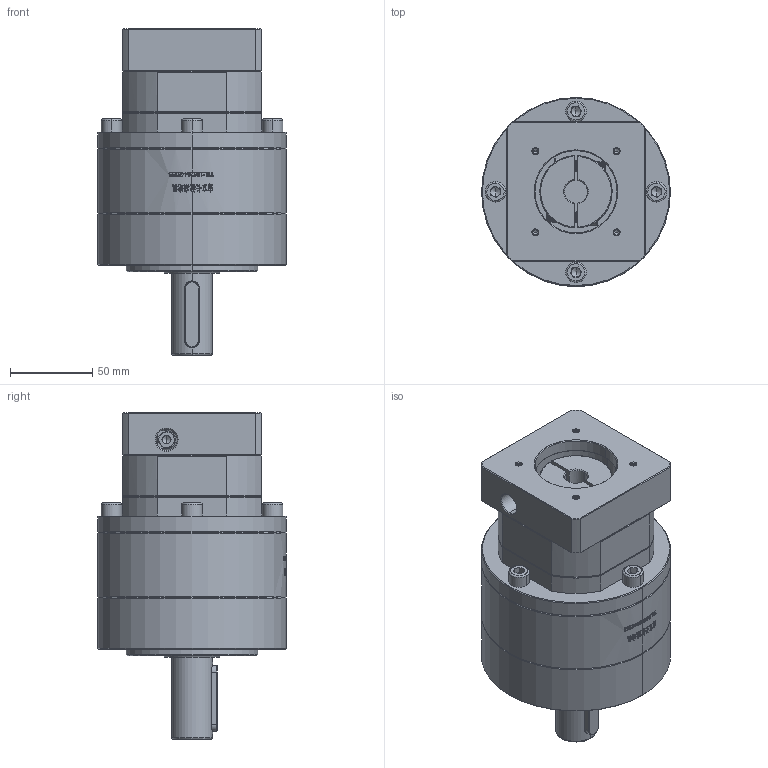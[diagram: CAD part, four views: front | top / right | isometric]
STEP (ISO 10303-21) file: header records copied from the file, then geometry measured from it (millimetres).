
FILE_DESCRIPTION (( 'STEP AP214' ), '1' );
FILE_NAME ('ZE120A-D25-L2-14-50-70-M4.step', '2023-03-13T06:48:24', ( '' ), ( '' ), 'SwSTEP 2.0', 'SolidWorks 2016', '' );
FILE_SCHEMA (( 'AUTOMOTIVE_DESIGN' ));
Length unit declared in the file: millimetre
Products named in the file (1): ZE120A-D25-L2-14-50-70-M4
Bounding box: 115 x 115 x 199 mm (x, y, z)
Volume: 1235891.8 mm3; surface area: 121249.9 mm2
Topology: 5 solids, 6 shells, 2018 faces, 5347 edges, 3420 vertices
Faces by surface type: plane 862, cylinder 492, bspline 348, cone 316
Entity records: 114122 total; most frequent: CARTESIAN_POINT 46590, ORIENTED_EDGE 10618, DIRECTION 7899, EDGE_CURVE 5309, VERTEX_POINT 3420, LINE 2785, VECTOR 2785, AXIS2_PLACEMENT_3D 2557
